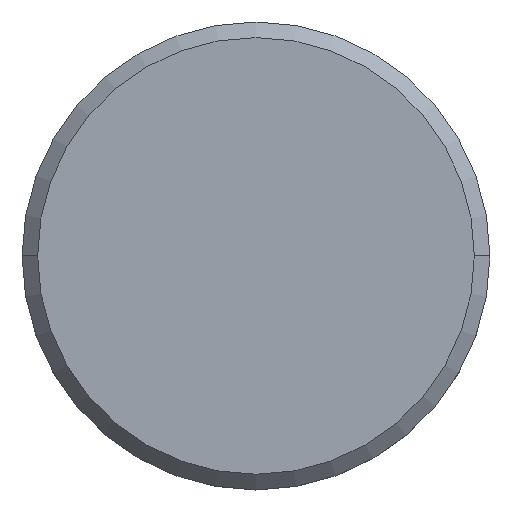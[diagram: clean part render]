
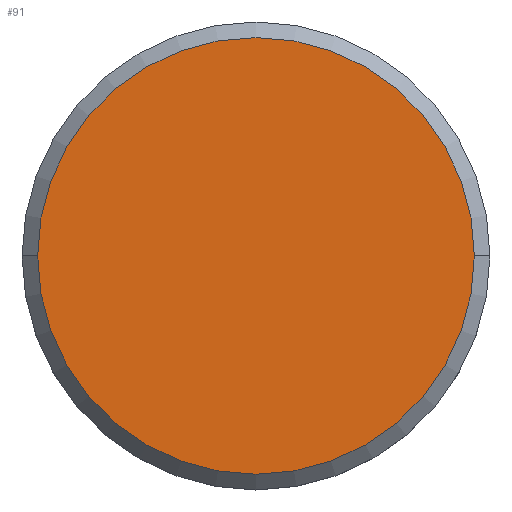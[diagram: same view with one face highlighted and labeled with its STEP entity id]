
A CAD part, top view. The second image highlights one B-rep face of the part: STEP entity #91.
In plain terms, the highlighted planar face has unit normal (0, 0, 1).
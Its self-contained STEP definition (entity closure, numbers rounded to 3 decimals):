
#15 = DIRECTION ( 'NONE',  ( -1., 0., 0. ) ) ;
#35 = DIRECTION ( 'NONE',  ( 0., 0., -1. ) ) ;
#37 = ORIENTED_EDGE ( 'NONE', *, *, #307, .T. ) ;
#62 = CIRCLE ( 'NONE', #220, 14. ) ;
#91 = ADVANCED_FACE ( 'NONE', ( #569 ), #243, .F. ) ;
#137 = EDGE_LOOP ( 'NONE', ( #711, #37 ) ) ;
#152 = CIRCLE ( 'NONE', #399, 14. ) ;
#180 = AXIS2_PLACEMENT_3D ( 'NONE', #237, #35, #15 ) ;
#220 = AXIS2_PLACEMENT_3D ( 'NONE', #468, #472, #476 ) ;
#237 = CARTESIAN_POINT ( 'NONE',  ( 0., 0., 0. ) ) ;
#243 = PLANE ( 'NONE',  #180 ) ;
#269 = VERTEX_POINT ( 'NONE', #351 ) ;
#307 = EDGE_CURVE ( 'NONE', #269, #778, #62, .T. ) ;
#351 = CARTESIAN_POINT ( 'NONE',  ( 14., 0., 0. ) ) ;
#399 = AXIS2_PLACEMENT_3D ( 'NONE', #698, #739, #459 ) ;
#425 = CARTESIAN_POINT ( 'NONE',  ( -14., 0., 0. ) ) ;
#459 = DIRECTION ( 'NONE',  ( -1., 0., 0. ) ) ;
#468 = CARTESIAN_POINT ( 'NONE',  ( 0., 0., 0. ) ) ;
#472 = DIRECTION ( 'NONE',  ( 0., 0., 1. ) ) ;
#476 = DIRECTION ( 'NONE',  ( -1., 0., 0. ) ) ;
#569 = FACE_OUTER_BOUND ( 'NONE', #137, .T. ) ;
#698 = CARTESIAN_POINT ( 'NONE',  ( 0., 0., 0. ) ) ;
#711 = ORIENTED_EDGE ( 'NONE', *, *, #950, .T. ) ;
#739 = DIRECTION ( 'NONE',  ( 0., 0., 1. ) ) ;
#778 = VERTEX_POINT ( 'NONE', #425 ) ;
#950 = EDGE_CURVE ( 'NONE', #778, #269, #152, .T. ) ;
